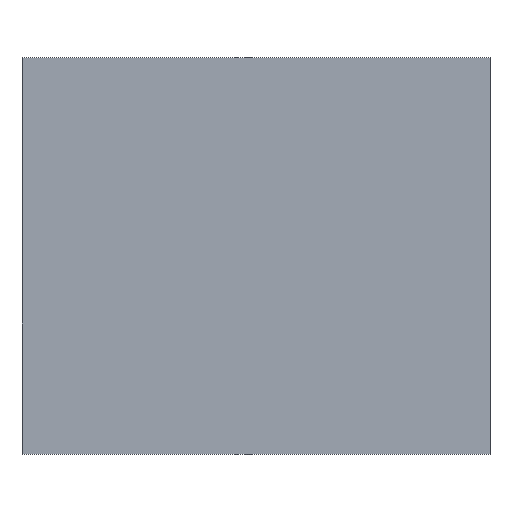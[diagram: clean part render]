
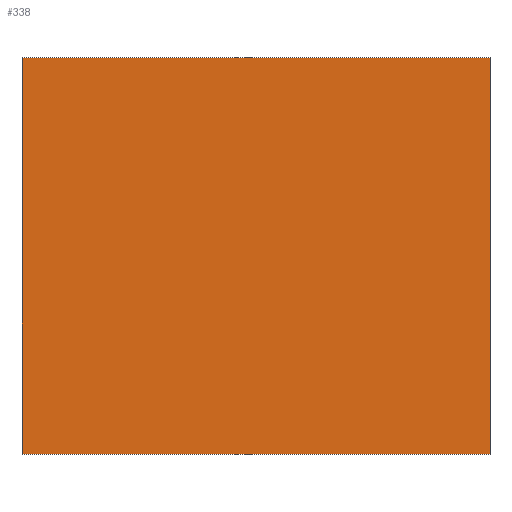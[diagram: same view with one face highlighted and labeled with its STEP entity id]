
A CAD part, top view. The second image highlights one B-rep face of the part: STEP entity #338.
In plain terms, the highlighted planar face has unit normal (0, 0, 1).
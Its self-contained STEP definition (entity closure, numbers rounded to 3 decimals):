
#24 = VERTEX_POINT('',#25);
#25 = CARTESIAN_POINT('',(-32.5,52.1,16.));
#32 = PLANE('',#33);
#33 = AXIS2_PLACEMENT_3D('',#34,#35,#36);
#34 = CARTESIAN_POINT('',(-32.5,52.1,10.));
#35 = DIRECTION('',(1.,0.,0.));
#36 = DIRECTION('',(0.,0.,1.));
#44 = PLANE('',#45);
#45 = AXIS2_PLACEMENT_3D('',#46,#47,#48);
#46 = CARTESIAN_POINT('',(-32.5,52.1,10.));
#47 = DIRECTION('',(0.,1.,0.));
#48 = DIRECTION('',(0.,0.,1.));
#85 = VERTEX_POINT('',#86);
#86 = CARTESIAN_POINT('',(-32.5,69.9,16.));
#100 = PLANE('',#101);
#101 = AXIS2_PLACEMENT_3D('',#102,#103,#104);
#102 = CARTESIAN_POINT('',(-32.5,69.9,10.));
#103 = DIRECTION('',(0.,1.,0.));
#104 = DIRECTION('',(0.,0.,1.));
#112 = EDGE_CURVE('',#24,#85,#113,.T.);
#113 = SURFACE_CURVE('',#114,(#118,#125),.PCURVE_S1.);
#114 = LINE('',#115,#116);
#115 = CARTESIAN_POINT('',(-32.5,52.1,16.));
#116 = VECTOR('',#117,1.);
#117 = DIRECTION('',(0.,1.,0.));
#118 = PCURVE('',#32,#119);
#119 = DEFINITIONAL_REPRESENTATION('',(#120),#124);
#120 = LINE('',#121,#122);
#121 = CARTESIAN_POINT('',(6.,0.));
#122 = VECTOR('',#123,1.);
#123 = DIRECTION('',(0.,-1.));
#124 = ( GEOMETRIC_REPRESENTATION_CONTEXT(2) 
PARAMETRIC_REPRESENTATION_CONTEXT() REPRESENTATION_CONTEXT('2D SPACE',''
  ) );
#125 = PCURVE('',#126,#131);
#126 = PLANE('',#127);
#127 = AXIS2_PLACEMENT_3D('',#128,#129,#130);
#128 = CARTESIAN_POINT('',(-32.5,52.1,16.));
#129 = DIRECTION('',(0.,0.,1.));
#130 = DIRECTION('',(1.,0.,0.));
#131 = DEFINITIONAL_REPRESENTATION('',(#132),#136);
#132 = LINE('',#133,#134);
#133 = CARTESIAN_POINT('',(0.,0.));
#134 = VECTOR('',#135,1.);
#135 = DIRECTION('',(0.,1.));
#136 = ( GEOMETRIC_REPRESENTATION_CONTEXT(2) 
PARAMETRIC_REPRESENTATION_CONTEXT() REPRESENTATION_CONTEXT('2D SPACE',''
  ) );
#144 = VERTEX_POINT('',#145);
#145 = CARTESIAN_POINT('',(-11.5,52.1,16.));
#152 = PLANE('',#153);
#153 = AXIS2_PLACEMENT_3D('',#154,#155,#156);
#154 = CARTESIAN_POINT('',(-11.5,52.1,10.));
#155 = DIRECTION('',(1.,0.,0.));
#156 = DIRECTION('',(0.,0.,1.));
#195 = VERTEX_POINT('',#196);
#196 = CARTESIAN_POINT('',(-11.5,69.9,16.));
#217 = EDGE_CURVE('',#144,#195,#218,.T.);
#218 = SURFACE_CURVE('',#219,(#223,#230),.PCURVE_S1.);
#219 = LINE('',#220,#221);
#220 = CARTESIAN_POINT('',(-11.5,52.1,16.));
#221 = VECTOR('',#222,1.);
#222 = DIRECTION('',(0.,1.,0.));
#223 = PCURVE('',#152,#224);
#224 = DEFINITIONAL_REPRESENTATION('',(#225),#229);
#225 = LINE('',#226,#227);
#226 = CARTESIAN_POINT('',(6.,0.));
#227 = VECTOR('',#228,1.);
#228 = DIRECTION('',(0.,-1.));
#229 = ( GEOMETRIC_REPRESENTATION_CONTEXT(2) 
PARAMETRIC_REPRESENTATION_CONTEXT() REPRESENTATION_CONTEXT('2D SPACE',''
  ) );
#230 = PCURVE('',#126,#231);
#231 = DEFINITIONAL_REPRESENTATION('',(#232),#236);
#232 = LINE('',#233,#234);
#233 = CARTESIAN_POINT('',(21.,0.));
#234 = VECTOR('',#235,1.);
#235 = DIRECTION('',(0.,1.));
#236 = ( GEOMETRIC_REPRESENTATION_CONTEXT(2) 
PARAMETRIC_REPRESENTATION_CONTEXT() REPRESENTATION_CONTEXT('2D SPACE',''
  ) );
#263 = EDGE_CURVE('',#24,#144,#264,.T.);
#264 = SURFACE_CURVE('',#265,(#269,#276),.PCURVE_S1.);
#265 = LINE('',#266,#267);
#266 = CARTESIAN_POINT('',(-32.5,52.1,16.));
#267 = VECTOR('',#268,1.);
#268 = DIRECTION('',(1.,0.,0.));
#269 = PCURVE('',#44,#270);
#270 = DEFINITIONAL_REPRESENTATION('',(#271),#275);
#271 = LINE('',#272,#273);
#272 = CARTESIAN_POINT('',(6.,0.));
#273 = VECTOR('',#274,1.);
#274 = DIRECTION('',(0.,1.));
#275 = ( GEOMETRIC_REPRESENTATION_CONTEXT(2) 
PARAMETRIC_REPRESENTATION_CONTEXT() REPRESENTATION_CONTEXT('2D SPACE',''
  ) );
#276 = PCURVE('',#126,#277);
#277 = DEFINITIONAL_REPRESENTATION('',(#278),#282);
#278 = LINE('',#279,#280);
#279 = CARTESIAN_POINT('',(0.,0.));
#280 = VECTOR('',#281,1.);
#281 = DIRECTION('',(1.,0.));
#282 = ( GEOMETRIC_REPRESENTATION_CONTEXT(2) 
PARAMETRIC_REPRESENTATION_CONTEXT() REPRESENTATION_CONTEXT('2D SPACE',''
  ) );
#310 = EDGE_CURVE('',#85,#195,#311,.T.);
#311 = SURFACE_CURVE('',#312,(#316,#323),.PCURVE_S1.);
#312 = LINE('',#313,#314);
#313 = CARTESIAN_POINT('',(-32.5,69.9,16.));
#314 = VECTOR('',#315,1.);
#315 = DIRECTION('',(1.,0.,0.));
#316 = PCURVE('',#100,#317);
#317 = DEFINITIONAL_REPRESENTATION('',(#318),#322);
#318 = LINE('',#319,#320);
#319 = CARTESIAN_POINT('',(6.,0.));
#320 = VECTOR('',#321,1.);
#321 = DIRECTION('',(0.,1.));
#322 = ( GEOMETRIC_REPRESENTATION_CONTEXT(2) 
PARAMETRIC_REPRESENTATION_CONTEXT() REPRESENTATION_CONTEXT('2D SPACE',''
  ) );
#323 = PCURVE('',#126,#324);
#324 = DEFINITIONAL_REPRESENTATION('',(#325),#329);
#325 = LINE('',#326,#327);
#326 = CARTESIAN_POINT('',(0.,17.8));
#327 = VECTOR('',#328,1.);
#328 = DIRECTION('',(1.,0.));
#329 = ( GEOMETRIC_REPRESENTATION_CONTEXT(2) 
PARAMETRIC_REPRESENTATION_CONTEXT() REPRESENTATION_CONTEXT('2D SPACE',''
  ) );
#338 = ADVANCED_FACE('',(#339),#126,.T.);
#339 = FACE_BOUND('',#340,.T.);
#340 = EDGE_LOOP('',(#341,#342,#343,#344));
#341 = ORIENTED_EDGE('',*,*,#112,.F.);
#342 = ORIENTED_EDGE('',*,*,#263,.T.);
#343 = ORIENTED_EDGE('',*,*,#217,.T.);
#344 = ORIENTED_EDGE('',*,*,#310,.F.);
